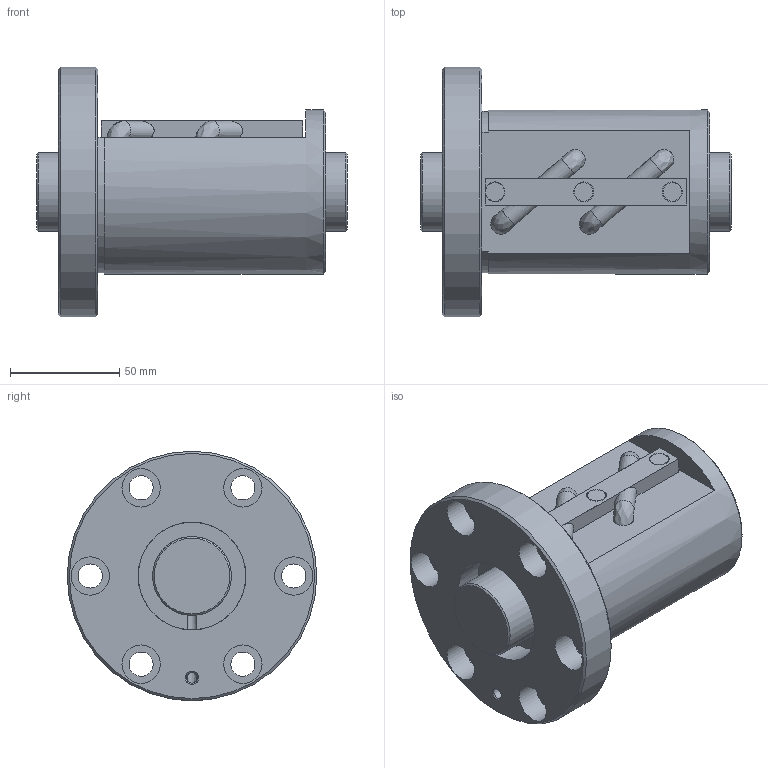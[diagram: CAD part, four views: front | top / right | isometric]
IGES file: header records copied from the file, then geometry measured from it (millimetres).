
Start section: Data from Parasolid IGES Translator 26.0.171, Copyright(c) 2006 Siemens PLM Software. All Rights Reserved.
Global section: file name: BIF3620V-3RRG0+142LC0_000.igs; native system: By Siemens PLM Incorporated; preprocessor: XPlus GENERIC/IGES 26.0.171; author: Noname; organization: Noname; date: 20240715.082406; units: millimetre
Bounding box: 142 x 114 x 114 mm (x, y, z)
Surface area: 89267.5 mm2 (no closed solid volume)
Topology: 0 solids, 0 shells, 94 faces, 434 edges, 393 vertices
Faces by surface type: revolution 51, extrusion 43
